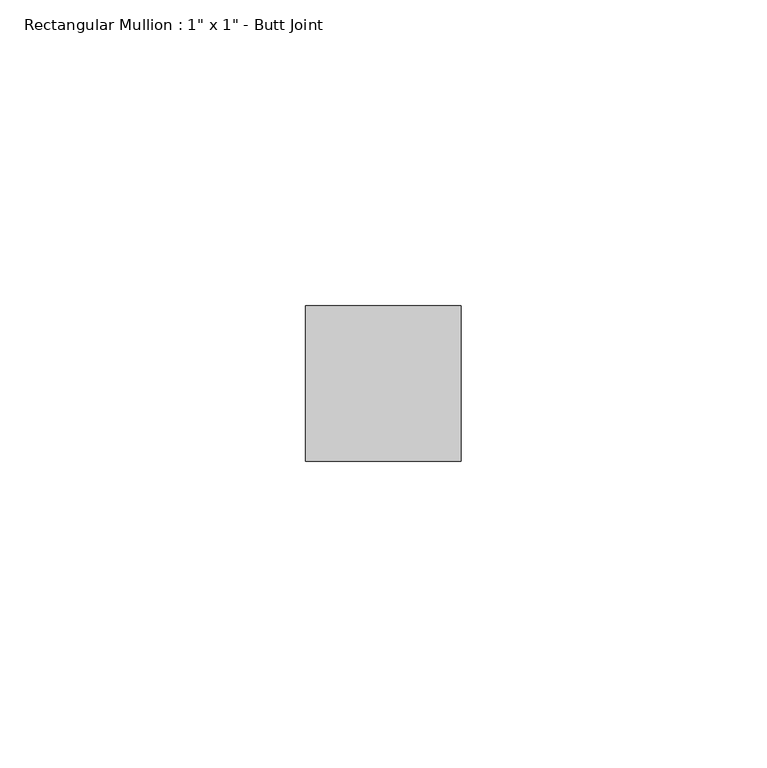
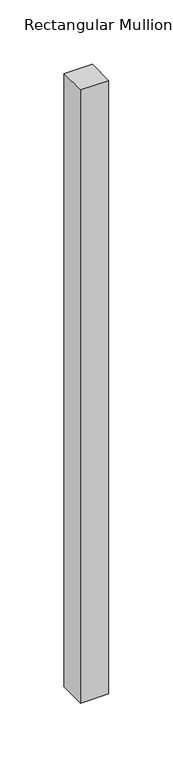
"""IFC4 building model written with IfcOpenShell, lengths in millimetres: member geometry."""

from ifc_helpers import new_model, si_unit, frame, origin, place, context, project, spatial, polyline, outline, extrude, source, transform, mapped, element, save


def member_0fe428da(model_context):
    return source(origin(), model_context, "Body", "SweptSolid", [
        extrude(outline(polyline([(12.7, 12.7), (12.7, -12.7), (-12.7, -12.7), (-12.7, 12.7), (12.7, 12.7)])), frame((0.0, 0.0, -582.1971865), z_axis=(0.0, 0.0, 1.0), x_axis=(1.0, 0.0, 0.0)), (0.0, 0.0, 1.0), 582.1971865),
    ])


if __name__ == "__main__":
    model = new_model("IFC4")
    model_context = context("Model", 3, world=origin())
    ifc_project = project(units=[si_unit("LENGTHUNIT", "METRE", prefix="MILLI")], contexts=[model_context])
    site = spatial("IfcSite", under=ifc_project)
    building = spatial("IfcBuilding", under=site)
    placement = place(None, origin())
    member_shape = member_0fe428da(model_context)
    element("IfcMember", 1, ObjectType="Rectangular Mullion : 1\" x 1\" - Butt Joint", at=placement, inside=building, context=model_context, shape_type="MappedRepresentation", body=[
        mapped(member_shape, transform((0.0, 0.0, 0.0), x_axis=(1.0, 0.0, 0.0), y_axis=(0.0, 1.0, 0.0), z_axis=(0.0, 0.0, 1.0))),
    ])
    save(model, "model.ifc")
